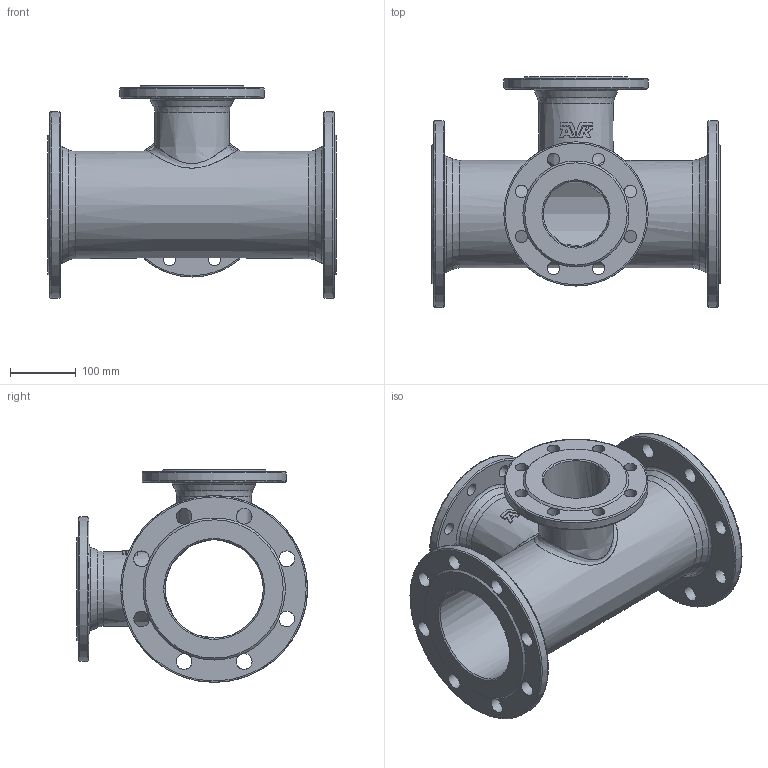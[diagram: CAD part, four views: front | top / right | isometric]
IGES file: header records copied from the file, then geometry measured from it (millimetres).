
Start section: SolidWorks IGES file using analytic representation for surfaces
Global section: file name: \\avksan2\techshare\PBM outline export from Enovia\O_712_1110_DN100_DN150_AA0.igs; native system: SolidWorks 2012; preprocessor: SolidWorks 2012; author: pbm; date: 171013.090238; units: millimetre
Bounding box: 440 x 352.5 x 324.5 mm (x, y, z)
Surface area: 870302.3 mm2 (no closed solid volume)
Topology: 0 solids, 0 shells, 171 faces, 1750 edges, 1676 vertices
Faces by surface type: revolution 120, bspline 51
